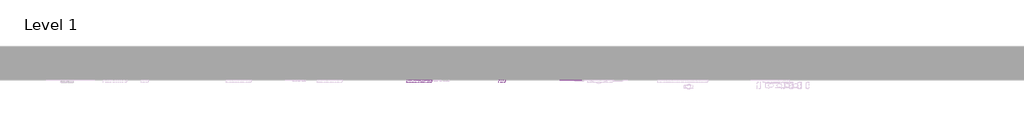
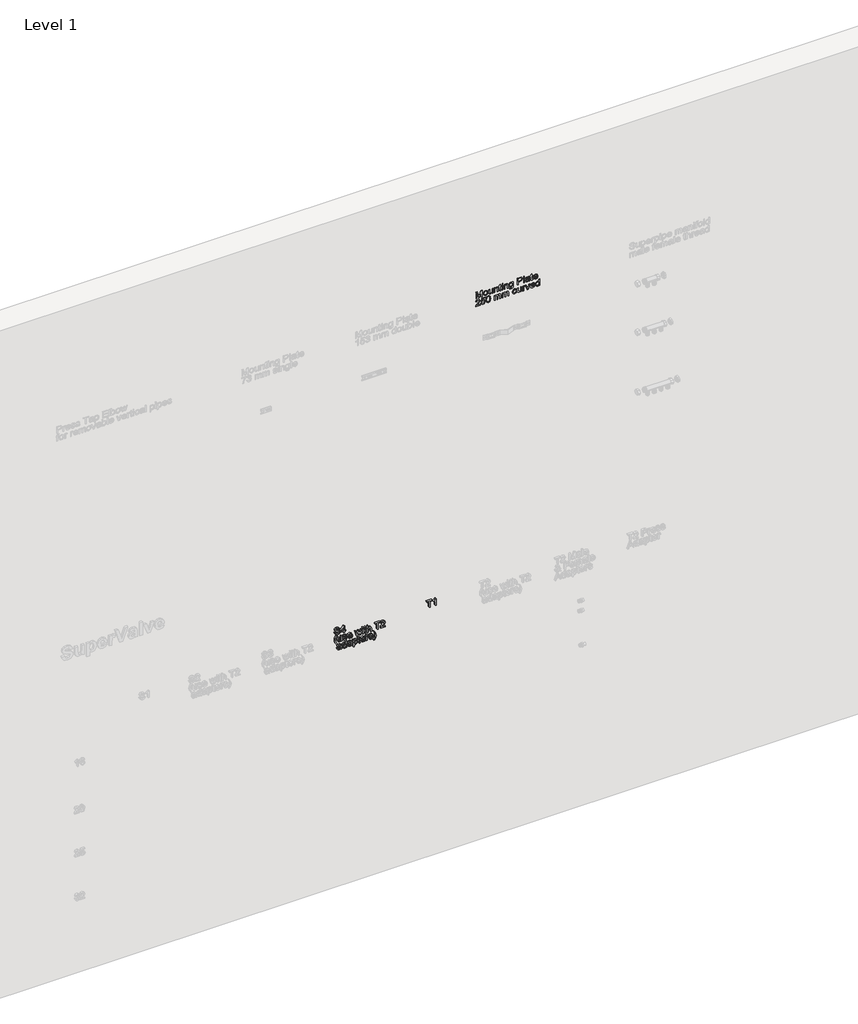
# One storey, part 15 of 57: 3 proxies.
"""IFC4 building model written with IfcOpenShell, lengths in millimetres."""

from ifc_helpers import new_model, si_unit, frame, origin, place, context, project, spatial, polyline, outline, extrude, element, save

model = new_model("IFC4")

# Units and contexts
model_context = context("Model", 3, world=origin())
ifc_project = project(units=[si_unit("LENGTHUNIT", "METRE", prefix="MILLI")], contexts=[model_context])

# Site, building, storey
site = spatial("IfcSite", under=ifc_project)
building = spatial("IfcBuilding", under=site)
storey = spatial("IfcBuildingStorey", under=building, Name="Level 1", Elevation=27.3876384)

# Proxies
placement = place(None, origin())
element("IfcBuildingElementProxy", 1, Name="50mm Arial", ObjectType="50mm Arial", at=placement, inside=storey, context=model_context, shape_type="SweptSolid", body=[
    extrude(outline(polyline([(4250.1944926, 14587.2068534), (4250.1944926, 14593.4853728), (4294.1441282, 14593.4853728), (4250.1944926, 14606.1037252), (4250.1944926, 14614.6140621), (4294.1441282, 14627.2324145), (4250.1944926, 14627.2324145), (4250.1944926, 14633.5109339), (4300.4226476, 14633.5109339), (4300.4226476, 14622.7074659), (4265.6332736, 14612.6029738), (4257.6257089, 14610.3588936), (4265.020137, 14608.2864917), (4300.4226476, 14598.0103213), (4300.4226476, 14587.2068534), (4250.1944926, 14587.2068534)])), frame((0.0, 4542.8703674, 0.0), z_axis=(0.0, 1.0, 0.0), x_axis=(0.0, 0.0, 1.0)), (0.0, 0.0, 1.0), 2.0),
    extrude(outline(polyline([(4268.6376432, 14642.143898), (4254.3638218, 14646.6995034), (4249.4096776, 14658.6372741), (4251.6598892, 14667.1414796), (4257.9813281, 14673.0705111), (4269.152678, 14675.1061248), (4282.8930706, 14670.5014685), (4287.8656089, 14658.6372741), (4283.7821187, 14647.5762888), (4277.5311905, 14643.5019957), (4268.6376432, 14642.143898)]), holes=[polyline([(4268.649906, 14648.4224174), (4278.368122, 14651.3286852), (4281.5870895, 14658.6372741), (4278.3558593, 14665.9029435), (4268.8461097, 14668.8276054), (4258.9378213, 14665.9213376), (4255.688197, 14658.6372741), (4258.9194272, 14651.3286852), (4268.649906, 14648.4224174)])]), frame((0.0, 4542.8703674, 0.0), z_axis=(0.0, 1.0, 0.0), x_axis=(0.0, 0.0, 1.0)), (0.0, 0.0, 1.0), 2.0),
    extrude(outline(polyline([(4250.1944926, 14705.7139068), (4250.1944926, 14711.9924262), (4287.0807939, 14711.9924262), (4287.0807939, 14705.7139068), (4267.8896165, 14705.7139068), (4260.8937272, 14704.6960999), (4257.0861486, 14701.2318778), (4255.688197, 14695.9895594), (4257.0554918, 14691.3113267), (4260.8140195, 14688.8281232), (4267.2151662, 14688.4479785), (4287.0807939, 14688.4479785), (4287.0807939, 14682.1694591), (4264.2598475, 14682.1694591), (4258.4227865, 14682.5373411), (4253.7997361, 14684.4074079), (4250.6604764, 14688.4786353), (4249.4096776, 14694.3831413), (4251.1908396, 14700.7965508), (4256.5343256, 14705.7139068), (4250.1944926, 14705.7139068)])), frame((0.0, 4542.8703674, 0.0), z_axis=(0.0, 1.0, 0.0), x_axis=(0.0, 0.0, 1.0)), (0.0, 0.0, 1.0), 2.0),
    extrude(outline(polyline([(4250.1944926, 14720.6253903), (4250.1944926, 14726.9039097), (4269.7658147, 14726.9039097), (4279.1222801, 14729.7672579), (4281.5870895, 14736.5792062), (4280.4895749, 14740.8895569), (4277.5526503, 14743.4463368), (4271.9976321, 14744.169838), (4250.1944926, 14744.169838), (4250.1944926, 14750.4483574), (4272.8437607, 14750.4483574), (4278.9138136, 14750.1172636), (4283.5307327, 14748.2349341), (4286.6699924, 14744.1882321), (4287.8656089, 14738.2592006), (4286.3818181, 14731.7047697), (4281.930446, 14726.9039097), (4287.0807939, 14726.9039097), (4287.0807939, 14720.6253903), (4250.1944926, 14720.6253903)])), frame((0.0, 4542.8703674, 0.0), z_axis=(0.0, 1.0, 0.0), x_axis=(0.0, 0.0, 1.0)), (0.0, 0.0, 1.0), 2.0),
    extrude(outline(polyline([(4255.4306796, 14772.4231752), (4255.688197, 14769.6885858), (4257.2578269, 14766.4757497), (4260.4951884, 14766.1446559), (4280.8022746, 14766.1446559), (4280.8022746, 14772.4231752), (4287.0807939, 14772.4231752), (4287.0807939, 14766.1446559), (4299.7359346, 14766.1446559), (4296.0448519, 14759.8661365), (4287.0807939, 14759.8661365), (4287.0807939, 14755.1572469), (4280.8022746, 14755.1572469), (4280.8022746, 14759.8661365), (4260.3112474, 14759.8661365), (4253.1865994, 14760.6264259), (4250.45201, 14763.2506508), (4249.4096776, 14768.5113634), (4250.0105516, 14773.2079902), (4255.4306796, 14772.4231752)])), frame((0.0, 4542.8703674, 0.0), z_axis=(0.0, 1.0, 0.0), x_axis=(0.0, 0.0, 1.0)), (0.0, 0.0, 1.0), 2.0),
    extrude(outline(polyline([(14784.980214, 4542.8703674), (14778.7016946, 4542.8703674), (14778.7016946, 4544.8703674), (14784.980214, 4544.8703674), (14784.980214, 4542.8703674)])), frame((0.0, 0.0, 4294.1441282), z_axis=(0.0, 0.0, 1.0), x_axis=(1.0, 0.0, 0.0)), (0.0, 0.0, 1.0), 6.2785194),
    extrude(outline(polyline([(14784.980214, 4542.8703674), (14778.7016946, 4542.8703674), (14778.7016946, 4544.8703674), (14784.980214, 4544.8703674), (14784.980214, 4542.8703674)])), frame((0.0, 0.0, 4250.1944926), z_axis=(0.0, 0.0, 1.0), x_axis=(1.0, 0.0, 0.0)), (0.0, 0.0, 1.0), 36.8863014),
    extrude(outline(polyline([(4250.1944926, 14794.3979931), (4250.1944926, 14800.6765125), (4269.7658147, 14800.6765125), (4279.1222801, 14803.5398607), (4281.5870895, 14810.351809), (4280.4895749, 14814.6621597), (4277.5526503, 14817.2189395), (4271.9976321, 14817.9424408), (4250.1944926, 14817.9424408), (4250.1944926, 14824.2209602), (4272.8437607, 14824.2209602), (4278.9138136, 14823.8898664), (4283.5307327, 14822.0075368), (4286.6699924, 14817.9608349), (4287.8656089, 14812.0318034), (4286.3818181, 14805.4773725), (4281.930446, 14800.6765125), (4287.0807939, 14800.6765125), (4287.0807939, 14794.3979931), (4250.1944926, 14794.3979931)])), frame((0.0, 4542.8703674, 0.0), z_axis=(0.0, 1.0, 0.0), x_axis=(0.0, 0.0, 1.0)), (0.0, 0.0, 1.0), 2.0),
    extrude(outline(polyline([(4247.0552329, 14831.2842945), (4238.2199336, 14835.1286613), (4235.283009, 14845.5703786), (4237.3676737, 14854.7367717), (4243.0391877, 14860.1752938), (4255.2344759, 14861.8920765), (4287.0807939, 14861.8920765), (4287.0807939, 14855.6135571), (4282.3719044, 14855.6135571), (4287.8656089, 14845.4968022), (4285.4375877, 14837.4953688), (4278.552063, 14832.29597), (4268.8215842, 14830.4994796), (4255.6759343, 14834.5032619), (4251.564853, 14839.3301803), (4250.1944926, 14845.8033706), (4254.9033821, 14855.6135571), (4247.5825304, 14855.1843614), (4243.143421, 14852.1186781), (4241.5615284, 14845.693006), (4242.95948, 14839.5984276), (4246.2704179, 14837.5628139), (4247.0552329, 14831.2842945)]), holes=[polyline([(4269.2507799, 14836.7779989), (4278.4784866, 14839.4941943), (4281.5870895, 14846.0854134), (4278.4294357, 14852.8176539), (4269.0668389, 14855.6135571), (4259.5141698, 14852.8973617), (4256.4730119, 14846.1835153), (4259.5325639, 14839.4574061), (4269.2507799, 14836.7779989)])]), frame((0.0, 4542.8703674, 0.0), z_axis=(0.0, 1.0, 0.0), x_axis=(0.0, 0.0, 1.0)), (0.0, 0.0, 1.0), 2.0),
    extrude(outline(polyline([(4250.1944926, 14891.7150436), (4250.1944926, 14897.9935629), (4270.5996806, 14897.9935629), (4270.5996806, 14910.7590682), (4275.03879, 14925.3455893), (4285.8913088, 14929.3861599), (4292.7400453, 14927.8901064), (4297.5960876, 14923.935375), (4299.944401, 14917.8346652), (4300.4226476, 14910.3298725), (4300.4226476, 14891.7150436), (4250.1944926, 14891.7150436)]), holes=[polyline([(4276.8781999, 14897.9935629), (4294.1441282, 14897.9935629), (4294.1441282, 14910.9797974), (4293.7149326, 14917.2583168), (4290.8699785, 14921.4950911), (4285.6705796, 14923.1076405), (4279.1835938, 14920.373051), (4276.8781999, 14911.1269502), (4276.8781999, 14897.9935629)])]), frame((0.0, 4542.8703674, 0.0), z_axis=(0.0, 1.0, 0.0), x_axis=(0.0, 0.0, 1.0)), (0.0, 0.0, 1.0), 2.0),
    extrude(outline(polyline([(14943.5128285, 4542.8703674), (14937.2343091, 4542.8703674), (14937.2343091, 4544.8703674), (14943.5128285, 4544.8703674), (14943.5128285, 4542.8703674)])), frame((0.0, 0.0, 4250.1944926), z_axis=(0.0, 0.0, 1.0), x_axis=(1.0, 0.0, 0.0)), (0.0, 0.0, 1.0), 50.2281551),
    extrude(outline(polyline([(4254.9033821, 14976.4750552), (4250.1944926, 14978.0446851), (4250.1944926, 14984.3232045), (4255.4735992, 14983.0724057), (4266.3813003, 14982.7535746), (4274.1926614, 14982.7535746), (4279.6863658, 14982.4470063), (4283.9476656, 14980.5217572), (4286.7497001, 14976.2236692), (4287.8656089, 14968.6146433), (4286.6025473, 14960.331167), (4283.0095665, 14954.861988), (4276.8781999, 14952.1457926), (4276.093385, 14958.424312), (4280.3792103, 14961.4532071), (4281.5870895, 14967.8053029), (4279.772205, 14974.7460099), (4273.7389402, 14976.438267), (4271.5806992, 14965.54896), (4270.6364688, 14960.1165692), (4268.5763296, 14955.7203793), (4264.971086, 14952.5627256), (4260.0046791, 14951.3609777), (4252.3895218, 14954.543157), (4249.4096776, 14963.6604991), (4250.6482137, 14970.3866082), (4254.9033821, 14976.4750552)]), holes=[polyline([(4267.4604209, 14976.4750552), (4265.6823246, 14976.438267), (4260.8262822, 14975.4449857), (4257.1903818, 14971.3492328), (4255.688197, 14964.997137), (4257.0493604, 14959.5095639), (4260.4461375, 14957.6394971), (4262.8618959, 14958.4978884), (4264.5173649, 14960.9443037), (4265.5351718, 14966.3460376), (4267.4604209, 14976.4750552)])]), frame((0.0, 4542.8703674, 0.0), z_axis=(0.0, 1.0, 0.0), x_axis=(0.0, 0.0, 1.0)), (0.0, 0.0, 1.0), 2.0),
    extrude(outline(polyline([(4255.4306796, 15004.7283925), (4255.688197, 15001.993803), (4257.2578269, 14998.7809669), (4260.4951884, 14998.4498731), (4280.8022746, 14998.4498731), (4280.8022746, 15004.7283925), (4287.0807939, 15004.7283925), (4287.0807939, 14998.4498731), (4299.7359346, 14998.4498731), (4296.0448519, 14992.1713537), (4287.0807939, 14992.1713537), (4287.0807939, 14987.4624642), (4280.8022746, 14987.4624642), (4280.8022746, 14992.1713537), (4260.3112474, 14992.1713537), (4253.1865994, 14992.9316432), (4250.45201, 14995.5558681), (4249.4096776, 15000.8165806), (4250.0105516, 15005.5132074), (4255.4306796, 15004.7283925)])), frame((0.0, 4542.8703674, 0.0), z_axis=(0.0, 1.0, 0.0), x_axis=(0.0, 0.0, 1.0)), (0.0, 0.0, 1.0), 2.0),
    extrude(outline(polyline([(4261.1819015, 15036.8322279), (4257.0003095, 15032.785526), (4255.688197, 15026.6296339), (4258.5208884, 15018.5423614), (4266.6756059, 15014.9309865), (4266.6756059, 15043.1475355), (4268.3678631, 15043.1843237), (4282.7520491, 15038.4202519), (4287.8656089, 15026.1513873), (4282.7397864, 15013.5207722), (4268.3310749, 15008.6524671), (4254.3822159, 15013.4717212), (4249.4096776, 15026.5070066), (4252.2914199, 15037.2307667), (4260.3970866, 15042.98812), (4261.1819015, 15036.8322279)]), holes=[polyline([(4272.9541253, 15014.9309865), (4279.2387761, 15018.3952086), (4281.5870895, 15026.1268619), (4278.6440335, 15034.391944), (4272.9541253, 15036.9058043), (4272.9541253, 15014.9309865)])]), frame((0.0, 4542.8703674, 0.0), z_axis=(0.0, 1.0, 0.0), x_axis=(0.0, 0.0, 1.0)), (0.0, 0.0, 1.0), 2.0),
    extrude(outline(polyline([(4195.485603, 14617.0298205), (4195.485603, 14592.3694641), (4198.680045, 14595.2021554), (4204.7194411, 14602.4249053), (4213.3217484, 14611.4196201), (4219.4776405, 14615.1290968), (4225.4311974, 14616.2450056), (4235.4130622, 14612.1063331), (4239.4352387, 14600.8675382), (4235.8177324, 14589.6655314), (4225.3085701, 14584.8524086), (4224.5237552, 14591.130928), (4230.8635882, 14593.773547), (4233.1567193, 14600.7326481), (4230.8084059, 14607.4097063), (4225.0510527, 14609.9664862), (4217.9386675, 14607.2564221), (4207.4785561, 14596.416166), (4200.2006239, 14588.5557541), (4193.5358284, 14584.742044), (4189.2070836, 14584.0675937), (4189.2070836, 14617.0298205), (4195.485603, 14617.0298205)])), frame((0.0, 4542.8703674, 0.0), z_axis=(0.0, 1.0, 0.0), x_axis=(0.0, 0.0, 1.0)), (0.0, 0.0, 1.0), 2.0),
    extrude(outline(polyline([(4202.5489373, 14623.3083399), (4192.291161, 14628.2073018), (4188.4222687, 14639.2866812), (4189.9275192, 14646.6811093), (4194.4432707, 14652.3342293), (4206.0928672, 14656.2705666), (4217.6688873, 14651.8989023), (4222.1693104, 14641.1628794), (4218.5395414, 14631.9780922), (4232.3719044, 14634.6636308), (4232.3719044, 14653.9161219), (4238.6504238, 14653.9161219), (4238.6504238, 14629.5868593), (4212.7515313, 14624.0931548), (4211.9667164, 14630.3716742), (4214.7994078, 14633.89721), (4215.890791, 14639.4093085), (4213.1562015, 14647.361691), (4205.7004597, 14649.9920473), (4197.7112891, 14647.1838814), (4194.7007881, 14639.3112067), (4196.8651605, 14632.7506444), (4203.3337522, 14629.5868593), (4202.5489373, 14623.3083399)])), frame((0.0, 4542.8703674, 0.0), z_axis=(0.0, 1.0, 0.0), x_axis=(0.0, 0.0, 1.0)), (0.0, 0.0, 1.0), 2.0),
    extrude(outline(polyline([(4213.916491, 14661.7642711), (4201.6997431, 14663.0150699), (4193.2047346, 14666.7674662), (4188.4222687, 14678.2453845), (4191.1752523, 14687.436303), (4199.5261736, 14692.8993506), (4213.916491, 14694.7264979), (4225.7193717, 14693.5860637), (4233.150588, 14690.6430077), (4237.8165579, 14685.5784989), (4239.4352387, 14678.2453845), (4236.7006492, 14669.0912542), (4228.368122, 14663.6098124), (4213.916491, 14661.7642711)]), holes=[polyline([(4213.9287537, 14668.0427905), (4229.7967304, 14671.0839483), (4233.1567193, 14678.1718081), (4229.3430093, 14685.6030244), (4213.9287537, 14688.4479785), (4198.3489512, 14685.5049225), (4194.7007881, 14678.2453845), (4198.3366885, 14670.9858464), (4213.9287537, 14668.0427905)])]), frame((0.0, 4542.8703674, 0.0), z_axis=(0.0, 1.0, 0.0), x_axis=(0.0, 0.0, 1.0)), (0.0, 0.0, 1.0), 2.0),
    extrude(outline(polyline([(4189.2070836, 14721.4102053), (4189.2070836, 14727.6887246), (4207.8096499, 14727.6887246), (4215.3021798, 14728.6452178), (4219.2507799, 14731.7354266), (4220.5996806, 14736.3830025), (4218.5763296, 14741.1470743), (4212.4940139, 14742.6002082), (4189.2070836, 14742.6002082), (4189.2070836, 14748.8787276), (4210.0292046, 14748.8787276), (4218.0858203, 14751.3374056), (4220.5996806, 14757.5116917), (4219.6186619, 14761.0985412), (4217.0373566, 14763.2077313), (4211.7950381, 14763.7902111), (4189.2070836, 14763.7902111), (4189.2070836, 14770.0687305), (4214.4928394, 14770.0687305), (4223.8431735, 14767.1931196), (4226.8781999, 14758.9832197), (4225.0541184, 14752.7966708), (4219.5818737, 14747.8977089), (4224.9590822, 14744.4396181), (4226.8781999, 14738.148836), (4224.9958704, 14732.0052067), (4220.0233321, 14727.6887246), (4226.093385, 14727.6887246), (4226.093385, 14721.4102053), (4189.2070836, 14721.4102053)])), frame((0.0, 4542.8703674, 0.0), z_axis=(0.0, 1.0, 0.0), x_axis=(0.0, 0.0, 1.0)), (0.0, 0.0, 1.0), 2.0),
    extrude(outline(polyline([(4189.2070836, 14779.4865096), (4189.2070836, 14785.7650289), (4207.8096499, 14785.7650289), (4215.3021798, 14786.7215221), (4219.2507799, 14789.8117309), (4220.5996806, 14794.4593068), (4218.5763296, 14799.2233786), (4212.4940139, 14800.6765125), (4189.2070836, 14800.6765125), (4189.2070836, 14806.9550319), (4210.0292046, 14806.9550319), (4218.0858203, 14809.4137099), (4220.5996806, 14815.587996), (4219.6186619, 14819.1748455), (4217.0373566, 14821.2840356), (4211.7950381, 14821.8665154), (4189.2070836, 14821.8665154), (4189.2070836, 14828.1450348), (4214.4928394, 14828.1450348), (4223.8431735, 14825.2694239), (4226.8781999, 14817.059524), (4225.0541184, 14810.8729751), (4219.5818737, 14805.9740132), (4224.9590822, 14802.5159225), (4226.8781999, 14796.2251403), (4224.9958704, 14790.081511), (4220.0233321, 14785.7650289), (4226.093385, 14785.7650289), (4226.093385, 14779.4865096), (4189.2070836, 14779.4865096)])), frame((0.0, 4542.8703674, 0.0), z_axis=(0.0, 1.0, 0.0), x_axis=(0.0, 0.0, 1.0)), (0.0, 0.0, 1.0), 2.0),
    extrude(outline(polyline([(4202.5489373, 14880.7276346), (4196.6260372, 14877.7171336), (4194.7007881, 14871.8003649), (4197.7848655, 14864.6327973), (4207.6870225, 14861.8920765), (4217.4972091, 14864.694111), (4220.5996806, 14871.9720431), (4219.0239193, 14877.0304206), (4214.3211612, 14879.9428197), (4215.1059761, 14886.2213391), (4223.8125166, 14881.46953), (4226.8781999, 14871.9229922), (4224.6463825, 14863.3819986), (4217.9447988, 14857.5326748), (4207.5153443, 14855.6135571), (4193.3580188, 14860.1078488), (4188.4222687, 14872.0088313), (4191.9600672, 14881.9661707), (4201.7641224, 14887.006154), (4202.5489373, 14880.7276346)])), frame((0.0, 4542.8703674, 0.0), z_axis=(0.0, 1.0, 0.0), x_axis=(0.0, 0.0, 1.0)), (0.0, 0.0, 1.0), 2.0),
    extrude(outline(polyline([(4189.2070836, 14916.0443062), (4189.2070836, 14922.3228256), (4226.093385, 14922.3228256), (4226.093385, 14916.0443062), (4206.9022076, 14916.0443062), (4199.9063183, 14915.0264993), (4196.0987397, 14911.5622772), (4194.7007881, 14906.3199588), (4196.0680828, 14901.6417261), (4199.8266106, 14899.1585226), (4206.2277573, 14898.7783779), (4226.093385, 14898.7783779), (4226.093385, 14892.4998585), (4203.2724386, 14892.4998585), (4197.4353776, 14892.8677405), (4192.8123272, 14894.7378073), (4189.6730675, 14898.8090347), (4188.4222687, 14904.7135407), (4190.2034307, 14911.1269502), (4195.5469167, 14916.0443062), (4189.2070836, 14916.0443062)])), frame((0.0, 4542.8703674, 0.0), z_axis=(0.0, 1.0, 0.0), x_axis=(0.0, 0.0, 1.0)), (0.0, 0.0, 1.0), 2.0),
    extrude(outline(polyline([(4189.2070836, 14930.9557897), (4189.2070836, 14937.2343091), (4208.5944648, 14937.2343091), (4215.9275792, 14938.2521159), (4219.3611445, 14940.5145902), (4220.5996806, 14944.0646515), (4219.3120936, 14948.4792354), (4224.9406881, 14950.5761628), (4226.8781999, 14944.2731179), (4225.6641894, 14940.3490433), (4220.6364688, 14936.4494942), (4226.093385, 14936.4494942), (4226.093385, 14930.9557897), (4189.2070836, 14930.9557897)])), frame((0.0, 4542.8703674, 0.0), z_axis=(0.0, 1.0, 0.0), x_axis=(0.0, 0.0, 1.0)), (0.0, 0.0, 1.0), 2.0),
    extrude(outline(polyline([(4189.2070836, 14963.5501345), (4189.2070836, 14971.5086483), (4226.093385, 14984.3232045), (4226.093385, 14977.6768031), (4203.5790069, 14969.7673402), (4196.5647235, 14967.4496836), (4203.9959398, 14965.0829761), (4226.093385, 14957.2225642), (4226.093385, 14950.5761628), (4189.2070836, 14963.5501345)])), frame((0.0, 4542.8703674, 0.0), z_axis=(0.0, 1.0, 0.0), x_axis=(0.0, 0.0, 1.0)), (0.0, 0.0, 1.0), 2.0),
    extrude(outline(polyline([(4200.1944926, 15015.642225), (4196.0129005, 15011.595523), (4194.7007881, 15005.439631), (4197.5334795, 14997.3523585), (4205.688197, 14993.7409835), (4205.688197, 15021.9575326), (4207.3804542, 15021.9943208), (4221.7646402, 15017.2302489), (4226.8781999, 15004.9613844), (4221.7523775, 14992.3307692), (4207.343666, 14987.4624642), (4193.394807, 14992.2817183), (4188.4222687, 15005.3170037), (4191.304011, 15016.0407638), (4199.4096776, 15021.798117), (4200.1944926, 15015.642225)]), holes=[polyline([(4211.9667164, 14993.7409835), (4218.2513672, 14997.2052057), (4220.5996806, 15004.9368589), (4217.6566246, 15013.2019411), (4211.9667164, 15015.7158014), (4211.9667164, 14993.7409835)])]), frame((0.0, 4542.8703674, 0.0), z_axis=(0.0, 1.0, 0.0), x_axis=(0.0, 0.0, 1.0)), (0.0, 0.0, 1.0), 2.0),
    extrude(outline(polyline([(4189.2070836, 15051.0324729), (4189.2070836, 15057.3109923), (4239.4352387, 15057.3109923), (4239.4352387, 15051.0324729), (4220.7223079, 15051.0324729), (4225.1675487, 15046.8999319), (4226.8781999, 15041.1119218), (4224.486967, 15033.0982257), (4217.6075737, 15027.7148858), (4207.6134461, 15025.9183954), (4197.62545, 15027.86817), (4190.8502899, 15033.3618744), (4188.4222687, 15041.1364473), (4190.0991975, 15046.8784721), (4195.1299838, 15051.0324729), (4189.2070836, 15051.0324729)]), holes=[polyline([(4207.6379716, 15032.1969148), (4217.478815, 15034.8456651), (4220.5996806, 15041.4552783), (4217.3500563, 15048.2672266), (4207.159725, 15051.0324729), (4197.7726028, 15048.3162775), (4194.7007881, 15041.7127957), (4197.9197556, 15035.0296061), (4207.6379716, 15032.1969148)])]), frame((0.0, 4542.8703674, 0.0), z_axis=(0.0, 1.0, 0.0), x_axis=(0.0, 0.0, 1.0)), (0.0, 0.0, 1.0), 2.0),
])
element("IfcBuildingElementProxy", 2, Name="50mm Arial", ObjectType="50mm Arial", at=placement, inside=storey, context=model_context, shape_type="SweptSolid", body=[
    extrude(outline(polyline([(2017.1831766, 13538.5875451), (2007.5937193, 13541.2976092), (2001.2416235, 13548.3916003), (1999.1324334, 13559.6058698), (2001.0883393, 13569.1033566), (2006.569781, 13575.5780797), (2014.0807051, 13577.8282913), (2021.1808276, 13575.8723853), (2026.2698619, 13569.7962011), (2029.4213843, 13558.6861648), (2032.928526, 13548.4345199), (2037.2817963, 13546.4356944), (2042.4934579, 13549.256123), (2044.6516989, 13558.2447064), (2042.4689324, 13567.2087644), (2036.0187348, 13570.764957), (2036.0187348, 13577.0434764), (2043.8791467, 13574.5541415), (2049.1398593, 13567.9322656), (2050.9302183, 13557.9994517), (2049.219567, 13548.6920373), (2044.2041091, 13542.3338101), (2037.0978553, 13540.157175), (2030.8561241, 13541.9168772), (2026.1840228, 13547.2572975), (2023.0876826, 13557.0981409), (2020.6903183, 13566.2400084), (2017.8392328, 13570.5074396), (2013.9212896, 13571.5497719), (2009.7090407, 13570.1579517), (2006.5575183, 13565.9211774), (2005.4109528, 13559.3606151), (2006.9254003, 13551.831297), (2010.8985259, 13546.8894155), (2017.1831766, 13544.8660645), (2017.1831766, 13538.5875451)])), frame((0.0, 4529.8703674, 0.0), z_axis=(0.0, 1.0, 0.0), x_axis=(0.0, 0.0, 1.0)), (0.0, 0.0, 1.0), 15.0),
    extrude(outline(polyline([(1999.9172483, 13605.2968136), (1999.9172483, 13611.575333), (2011.6894721, 13611.575333), (2011.6894721, 13617.8538524), (2017.9679915, 13617.8538524), (2017.9679915, 13611.575333), (2049.3605884, 13611.575333), (2049.3605884, 13606.8664434), (2017.9679915, 13582.5371808), (2011.6894721, 13582.5371808), (2011.6894721, 13605.2968136), (1999.9172483, 13605.2968136)]), holes=[polyline([(2017.9679915, 13605.2968136), (2017.9679915, 13590.2627027), (2037.3676354, 13605.2968136), (2017.9679915, 13605.2968136)])]), frame((0.0, 4529.8703674, 0.0), z_axis=(0.0, 1.0, 0.0), x_axis=(0.0, 0.0, 1.0)), (0.0, 0.0, 1.0), 15.0),
    extrude(outline(polyline([(1924.8031708, 13552.7142137), (1924.8031708, 13557.4231033), (1940.8857453, 13549.1825466), (1956.9805826, 13546.4356944), (1969.5744096, 13548.0175869), (1979.2129178, 13551.5492541), (1989.1579944, 13557.4231033), (1989.1579944, 13552.7142137), (1972.2844736, 13542.8795017), (1957.0173708, 13540.157175), (1939.5307133, 13543.7992067), (1924.8031708, 13552.7142137)])), frame((0.0, 4529.8703674, 0.0), z_axis=(0.0, 1.0, 0.0), x_axis=(0.0, 0.0, 1.0)), (0.0, 0.0, 1.0), 15.0),
    extrude(outline(polyline([(1938.9298394, 13587.2460704), (1938.9298394, 13593.5245897), (1975.8161408, 13593.5245897), (1975.8161408, 13587.2460704), (1956.6249633, 13587.2460704), (1949.6290741, 13586.2282635), (1945.8214954, 13582.7640414), (1944.4235438, 13577.521723), (1945.7908386, 13572.8434902), (1949.5493663, 13570.3602868), (1955.950513, 13569.980142), (1975.8161408, 13569.980142), (1975.8161408, 13563.7016227), (1952.9951943, 13563.7016227), (1947.1581333, 13564.0695047), (1942.5350829, 13565.9395715), (1939.3958232, 13570.0107989), (1938.1450245, 13575.9153049), (1939.9261864, 13582.3287144), (1945.2696724, 13587.2460704), (1938.9298394, 13587.2460704)])), frame((0.0, 4529.8703674, 0.0), z_axis=(0.0, 1.0, 0.0), x_axis=(0.0, 0.0, 1.0)), (0.0, 0.0, 1.0), 15.0),
    extrude(outline(polyline([(1949.9172483, 13599.8031091), (1941.1126059, 13604.6101005), (1938.1450245, 13615.5607213), (1939.6839975, 13623.3352941), (1944.0433991, 13628.5898752), (1950.0521384, 13630.4108911), (1955.5090546, 13628.8596554), (1958.8567808, 13624.5799615), (1961.8120995, 13615.3645175), (1963.1487374, 13609.9566522), (1964.5344262, 13607.6144702), (1966.3615735, 13606.8664434), (1969.1329512, 13608.6690652), (1970.3224363, 13614.6778045), (1969.0777689, 13620.2021658), (1965.6135468, 13622.5627419), (1966.3983617, 13628.8412613), (1972.0330876, 13626.6830202), (1975.368551, 13621.8269779), (1976.6009557, 13614.1872951), (1975.8345349, 13608.7855612), (1973.9767308, 13604.7940415), (1970.4021441, 13601.7160955), (1965.7239114, 13600.587924), (1960.6594026, 13601.992007), (1957.0725531, 13606.1184167), (1954.0007384, 13615.572984), (1952.2103794, 13622.0354444), (1949.3899508, 13624.1323717), (1945.9073345, 13622.0477071), (1944.4235438, 13615.6465604), (1946.0422246, 13608.9878963), (1950.7020632, 13606.0816285), (1949.9172483, 13599.8031091)])), frame((0.0, 4529.8703674, 0.0), z_axis=(0.0, 1.0, 0.0), x_axis=(0.0, 0.0, 1.0)), (0.0, 0.0, 1.0), 15.0),
    extrude(outline(polyline([(1949.9172483, 13663.2995415), (1945.7356563, 13659.2528395), (1944.4235438, 13653.0969475), (1947.2562352, 13645.009675), (1955.4109528, 13641.3983), (1955.4109528, 13669.6148491), (1957.1032099, 13669.6516373), (1971.4873959, 13664.8875654), (1976.6009557, 13652.6187009), (1971.4751332, 13639.9880857), (1957.0664217, 13635.1197807), (1943.1175628, 13639.9390348), (1938.1450245, 13652.9743202), (1941.0267667, 13663.6980803), (1949.1324334, 13669.4554335), (1949.9172483, 13663.2995415)]), holes=[polyline([(1961.6894721, 13641.3983), (1967.9741229, 13644.8625222), (1970.3224363, 13652.5941754), (1967.3793803, 13660.8592576), (1961.6894721, 13663.3731179), (1961.6894721, 13641.3983)])]), frame((0.0, 4529.8703674, 0.0), z_axis=(0.0, 1.0, 0.0), x_axis=(0.0, 0.0, 1.0)), (0.0, 0.0, 1.0), 15.0),
    extrude(outline(polyline([(1938.9298394, 13701.6696336), (1938.9298394, 13709.3461046), (1967.3058039, 13715.5633103), (1960.5613007, 13716.9612619), (1938.9298394, 13721.780516), (1938.9298394, 13729.3711478), (1975.8161408, 13740.6773878), (1975.8161408, 13734.1290883), (1954.4421968, 13727.752467), (1947.3665998, 13725.7659043), (1954.0743148, 13724.3802154), (1975.8161408, 13719.3402321), (1975.8161408, 13711.8599649), (1954.0130012, 13706.7954561), (1946.6063103, 13705.2380889), (1954.295044, 13703.3373653), (1975.8161408, 13696.9730068), (1975.8161408, 13690.4492327), (1938.9298394, 13701.6696336)])), frame((0.0, 4529.8703674, 0.0), z_axis=(0.0, 1.0, 0.0), x_axis=(0.0, 0.0, 1.0)), (0.0, 0.0, 1.0), 15.0),
    extrude(outline(polyline([(13751.2723893, 4529.8703674), (13744.9938699, 4529.8703674), (13744.9938699, 4544.8703674), (13751.2723893, 4544.8703674), (13751.2723893, 4529.8703674)])), frame((0.0, 0.0, 1982.8794751), z_axis=(0.0, 0.0, 1.0), x_axis=(1.0, 0.0, 0.0)), (0.0, 0.0, 1.0), 6.2785194),
    extrude(outline(polyline([(13751.2723893, 4529.8703674), (13744.9938699, 4529.8703674), (13744.9938699, 4544.8703674), (13751.2723893, 4544.8703674), (13751.2723893, 4529.8703674)])), frame((0.0, 0.0, 1938.9298394), z_axis=(0.0, 0.0, 1.0), x_axis=(1.0, 0.0, 0.0)), (0.0, 0.0, 1.0), 36.8863014),
    extrude(outline(polyline([(1944.1660264, 13774.032022), (1944.4235438, 13771.2974325), (1945.9931737, 13768.0845965), (1949.2305352, 13767.7535027), (1969.5376214, 13767.7535027), (1969.5376214, 13774.032022), (1975.8161408, 13774.032022), (1975.8161408, 13767.7535027), (1988.4712814, 13767.7535027), (1984.7801987, 13761.4749833), (1975.8161408, 13761.4749833), (1975.8161408, 13756.7660937), (1969.5376214, 13756.7660937), (1969.5376214, 13761.4749833), (1949.0465942, 13761.4749833), (1941.9219463, 13762.2352727), (1939.1873568, 13764.8594976), (1938.1450245, 13770.1202102), (1938.7458984, 13774.816837), (1944.1660264, 13774.032022)])), frame((0.0, 4529.8703674, 0.0), z_axis=(0.0, 1.0, 0.0), x_axis=(0.0, 0.0, 1.0)), (0.0, 0.0, 1.0), 15.0),
    extrude(outline(polyline([(1938.9298394, 13780.3105414), (1938.9298394, 13786.5890608), (1958.525687, 13786.5890608), (1965.1353002, 13787.612999), (1968.9244847, 13791.0465643), (1970.3224363, 13796.1907809), (1968.2500344, 13801.8561636), (1961.6281585, 13803.8549891), (1938.9298394, 13803.8549891), (1938.9298394, 13810.1335085), (1962.2780833, 13810.1335085), (1970.5309028, 13808.8459215), (1974.9884063, 13804.5662276), (1976.6009557, 13797.5151561), (1970.6903183, 13786.5890608), (1989.1579944, 13786.5890608), (1989.1579944, 13780.3105414), (1938.9298394, 13780.3105414)])), frame((0.0, 4529.8703674, 0.0), z_axis=(0.0, 1.0, 0.0), x_axis=(0.0, 0.0, 1.0)), (0.0, 0.0, 1.0), 15.0),
    extrude(outline(polyline([(1938.9298394, 13851.7286994), (1938.9298394, 13858.0072188), (1982.8794751, 13858.0072188), (1982.8794751, 13874.4883322), (1989.1579944, 13874.4883322), (1989.1579944, 13835.247586), (1982.8794751, 13835.247586), (1982.8794751, 13851.7286994), (1938.9298394, 13851.7286994)])), frame((0.0, 4529.8703674, 0.0), z_axis=(0.0, 1.0, 0.0), x_axis=(0.0, 0.0, 1.0)), (0.0, 0.0, 1.0), 15.0),
    extrude(outline(polyline([(1945.2083588, 13911.3746336), (1945.2083588, 13886.7142772), (1948.4028008, 13889.5469685), (1954.4421968, 13896.7697184), (1963.0445042, 13905.7644331), (1969.2003962, 13909.4739099), (1975.1539532, 13910.5898187), (1985.135818, 13906.4511462), (1989.1579944, 13895.2123513), (1985.5404882, 13884.0103445), (1975.0313258, 13879.1972217), (1974.2465109, 13885.4757411), (1980.586344, 13888.1183601), (1982.8794751, 13895.0774612), (1980.5311617, 13901.7545194), (1974.7738084, 13904.3112993), (1967.6614232, 13901.6012352), (1957.2013118, 13890.7609791), (1949.9233797, 13882.9005671), (1943.2585842, 13879.0868571), (1938.9298394, 13878.4124068), (1938.9298394, 13911.3746336), (1945.2083588, 13911.3746336)])), frame((0.0, 4529.8703674, 0.0), z_axis=(0.0, 1.0, 0.0), x_axis=(0.0, 0.0, 1.0)), (0.0, 0.0, 1.0), 15.0),
    extrude(outline(polyline([(1882.65132, 13583.3219957), (1877.9424305, 13584.8916256), (1877.9424305, 13591.170145), (1883.2215371, 13589.9193462), (1894.1292382, 13589.6005151), (1901.9405993, 13589.6005151), (1907.4343037, 13589.2939468), (1911.6956035, 13587.3686977), (1914.497638, 13583.0706097), (1915.6135468, 13575.4615838), (1914.3504852, 13567.1781075), (1910.7575044, 13561.7089285), (1904.6261378, 13558.9927331), (1903.8413229, 13565.2712525), (1908.1271482, 13568.3001476), (1909.3350274, 13574.6522434), (1907.5201429, 13581.5929504), (1901.4868781, 13583.2852075), (1899.3286371, 13572.3959005), (1898.3844067, 13566.9635097), (1896.3242675, 13562.5673198), (1892.7190239, 13559.4096661), (1887.752617, 13558.2079182), (1880.1374597, 13561.3900975), (1877.1576155, 13570.5074396), (1878.3961516, 13577.2335487), (1882.65132, 13583.3219957)]), holes=[polyline([(1895.2083588, 13583.3219957), (1893.4302624, 13583.2852075), (1888.5742201, 13582.2919262), (1884.9383197, 13578.1961733), (1883.4361349, 13571.8440775), (1884.7972983, 13566.3565044), (1888.1940754, 13564.4864376), (1890.6098338, 13565.3448289), (1892.2653028, 13567.7912442), (1893.2831097, 13573.1929781), (1895.2083588, 13583.3219957)])]), frame((0.0, 4529.8703674, 0.0), z_axis=(0.0, 1.0, 0.0), x_axis=(0.0, 0.0, 1.0)), (0.0, 0.0, 1.0), 15.0),
    extrude(outline(polyline([(1877.9424305, 13620.993112), (1877.9424305, 13627.2716314), (1928.1705855, 13627.2716314), (1928.1705855, 13620.993112), (1909.4576547, 13620.993112), (1913.9028955, 13616.860571), (1915.6135468, 13611.0725609), (1913.2223138, 13603.0588648), (1906.3429205, 13597.6755249), (1896.3487929, 13595.8790345), (1886.3607968, 13597.8288091), (1879.5856367, 13603.3225135), (1877.1576155, 13611.0970864), (1878.8345443, 13616.8391112), (1883.8653306, 13620.993112), (1877.9424305, 13620.993112)]), holes=[polyline([(1896.3733184, 13602.1575539), (1906.2141618, 13604.8063043), (1909.3350274, 13611.4159174), (1906.0854031, 13618.2278657), (1895.8950718, 13620.993112), (1886.5079496, 13618.2769166), (1883.4361349, 13611.6734348), (1886.6551024, 13604.9902453), (1896.3733184, 13602.1575539)])]), frame((0.0, 4529.8703674, 0.0), z_axis=(0.0, 1.0, 0.0), x_axis=(0.0, 0.0, 1.0)), (0.0, 0.0, 1.0), 15.0),
    extrude(outline(polyline([(1882.65132, 13660.2338582), (1877.9424305, 13661.803488), (1877.9424305, 13668.0820074), (1883.2215371, 13666.8312086), (1894.1292382, 13666.5123776), (1901.9405993, 13666.5123776), (1907.4343037, 13666.2058093), (1911.6956035, 13664.2805601), (1914.497638, 13659.9824722), (1915.6135468, 13652.3734462), (1914.3504852, 13644.08997), (1910.7575044, 13638.620791), (1904.6261378, 13635.9045956), (1903.8413229, 13642.183115), (1908.1271482, 13645.2120101), (1909.3350274, 13651.5641058), (1907.5201429, 13658.5048128), (1901.4868781, 13660.19707), (1899.3286371, 13649.3077629), (1898.3844067, 13643.8753721), (1896.3242675, 13639.4791823), (1892.7190239, 13636.3215285), (1887.752617, 13635.1197807), (1880.1374597, 13638.3019599), (1877.1576155, 13647.419302), (1878.3961516, 13654.1454112), (1882.65132, 13660.2338582)]), holes=[polyline([(1895.2083588, 13660.2338582), (1893.4302624, 13660.19707), (1888.5742201, 13659.2037886), (1884.9383197, 13655.1080357), (1883.4361349, 13648.7559399), (1884.7972983, 13643.2683669), (1888.1940754, 13641.3983), (1890.6098338, 13642.2566914), (1892.2653028, 13644.7031066), (1893.2831097, 13650.1048406), (1895.2083588, 13660.2338582)])]), frame((0.0, 4529.8703674, 0.0), z_axis=(0.0, 1.0, 0.0), x_axis=(0.0, 0.0, 1.0)), (0.0, 0.0, 1.0), 15.0),
    extrude(outline(polyline([(1863.8157618, 13675.1453417), (1863.8157618, 13681.4238611), (1882.8475237, 13681.4238611), (1878.7701649, 13685.403118), (1877.1576155, 13690.8661657), (1879.5672426, 13698.8062854), (1886.4956868, 13704.5575073), (1896.667624, 13706.5379387), (1906.3429205, 13704.7843678), (1913.1855256, 13699.5849689), (1915.6135468, 13691.6264551), (1913.87837, 13685.7648687), (1908.6728398, 13681.4238611), (1914.8287318, 13681.4238611), (1914.8287318, 13675.1453417), (1863.8157618, 13675.1453417)]), holes=[polyline([(1896.0912755, 13681.4238611), (1905.9443817, 13684.3239975), (1909.3350274, 13690.988793), (1906.1467167, 13697.5248298), (1896.5572594, 13700.2594193), (1886.6367083, 13697.4573847), (1883.4361349, 13690.7312756), (1886.5263437, 13684.1400565), (1896.0912755, 13681.4238611)])]), frame((0.0, 4529.8703674, 0.0), z_axis=(0.0, 1.0, 0.0), x_axis=(0.0, 0.0, 1.0)), (0.0, 0.0, 1.0), 15.0),
    extrude(outline(polyline([(1883.1786175, 13726.9431267), (1883.4361349, 13724.2085372), (1885.0057648, 13720.9957011), (1888.2431263, 13720.6646073), (1908.5502125, 13720.6646073), (1908.5502125, 13726.9431267), (1914.8287318, 13726.9431267), (1914.8287318, 13720.6646073), (1927.4838725, 13720.6646073), (1923.7927898, 13714.3860879), (1914.8287318, 13714.3860879), (1914.8287318, 13709.6771984), (1908.5502125, 13709.6771984), (1908.5502125, 13714.3860879), (1888.0591853, 13714.3860879), (1880.9345373, 13715.1463773), (1878.1999478, 13717.7706022), (1877.1576155, 13723.0313148), (1877.7584895, 13727.7279416), (1883.1786175, 13726.9431267)])), frame((0.0, 4529.8703674, 0.0), z_axis=(0.0, 1.0, 0.0), x_axis=(0.0, 0.0, 1.0)), (0.0, 0.0, 1.0), 15.0),
    extrude(outline(polyline([(1888.9298394, 13759.0469621), (1884.7482474, 13755.0002602), (1883.4361349, 13748.8443681), (1886.2688263, 13740.7570956), (1894.4235438, 13737.1457207), (1894.4235438, 13765.3622697), (1896.115801, 13765.3990579), (1910.499987, 13760.634986), (1915.6135468, 13748.3661215), (1910.4877243, 13735.7355063), (1896.0790128, 13730.8672013), (1882.1301538, 13735.6864554), (1877.1576155, 13748.7217408), (1880.0393578, 13759.4455009), (1888.1450245, 13765.2028542), (1888.9298394, 13759.0469621)]), holes=[polyline([(1900.7020632, 13737.1457207), (1906.986714, 13740.6099428), (1909.3350274, 13748.341596), (1906.3919714, 13756.6066782), (1900.7020632, 13759.1205385), (1900.7020632, 13737.1457207)])]), frame((0.0, 4529.8703674, 0.0), z_axis=(0.0, 1.0, 0.0), x_axis=(0.0, 0.0, 1.0)), (0.0, 0.0, 1.0), 15.0),
    extrude(outline(polyline([(1877.9424305, 13771.6775773), (1877.9424305, 13777.9560967), (1897.3298116, 13777.9560967), (1904.662926, 13778.9739035), (1908.0964913, 13781.2363778), (1909.3350274, 13784.786439), (1908.0474404, 13789.201023), (1913.6760349, 13791.2979503), (1915.6135468, 13784.9949055), (1914.3995362, 13781.0708309), (1909.3718156, 13777.1712817), (1914.8287318, 13777.1712817), (1914.8287318, 13771.6775773), (1877.9424305, 13771.6775773)])), frame((0.0, 4529.8703674, 0.0), z_axis=(0.0, 1.0, 0.0), x_axis=(0.0, 0.0, 1.0)), (0.0, 0.0, 1.0), 15.0),
    extrude(outline(polyline([(1888.9298394, 13792.8675802), (1880.125197, 13797.6745716), (1877.1576155, 13808.6251923), (1878.6965885, 13816.3997652), (1883.0559902, 13821.6543463), (1889.0647294, 13823.4753622), (1894.5216457, 13821.9241264), (1897.8693719, 13817.6444326), (1900.8246906, 13808.4289886), (1902.1613285, 13803.0211233), (1903.5470173, 13800.6789412), (1905.3741646, 13799.9309145), (1908.1455423, 13801.7335363), (1909.3350274, 13807.7422755), (1908.09036, 13813.2666368), (1904.6261378, 13815.627213), (1905.4109528, 13821.9057323), (1911.0456787, 13819.7474913), (1914.3811421, 13814.891449), (1915.6135468, 13807.2517662), (1914.8471259, 13801.8500322), (1912.9893219, 13797.8585126), (1909.4147351, 13794.7805666), (1904.7365024, 13793.6523951), (1899.6719936, 13795.0564781), (1896.0851442, 13799.1828878), (1893.0133295, 13808.6374551), (1891.2229705, 13815.0999154), (1888.4025418, 13817.1968428), (1884.9199256, 13815.1121782), (1883.4361349, 13808.7110315), (1885.0548157, 13802.0523673), (1889.7146543, 13799.1460996), (1888.9298394, 13792.8675802)])), frame((0.0, 4529.8703674, 0.0), z_axis=(0.0, 1.0, 0.0), x_axis=(0.0, 0.0, 1.0)), (0.0, 0.0, 1.0), 15.0),
    extrude(outline(polyline([(1863.8157618, 13832.1083263), (1878.5433044, 13841.0049393), (1896.0299619, 13844.6653651), (1911.2970647, 13841.9430384), (1928.1705855, 13832.1083263), (1928.1705855, 13827.3994368), (1918.1274071, 13833.3100742), (1908.4766361, 13836.8049532), (1895.9931737, 13838.3868457), (1879.8983364, 13835.6399935), (1863.8157618, 13827.3994368), (1863.8157618, 13832.1083263)])), frame((0.0, 4529.8703674, 0.0), z_axis=(0.0, 1.0, 0.0), x_axis=(0.0, 0.0, 1.0)), (0.0, 0.0, 1.0), 15.0),
])
element("IfcBuildingElementProxy", 3, Name="50mm Arial", ObjectType="50mm Arial", at=placement, inside=storey, context=model_context, shape_type="SweptSolid", body=[
    extrude(outline(polyline([(1975.1450495, 14235.3647793), (1975.1450495, 14241.6432987), (2019.0946852, 14241.6432987), (2019.0946852, 14258.1244121), (2025.3732046, 14258.1244121), (2025.3732046, 14218.8836659), (2019.0946852, 14218.8836659), (2019.0946852, 14235.3647793), (1975.1450495, 14235.3647793)])), frame((0.0, 4529.8703674, 0.0), z_axis=(0.0, 1.0, 0.0), x_axis=(0.0, 0.0, 1.0)), (0.0, 0.0, 1.0), 15.0),
    extrude(outline(polyline([(1975.1450495, 14286.3777493), (2025.3732046, 14286.3777493), (2025.3732046, 14282.3310474), (2018.690015, 14276.7453724), (2012.8161658, 14267.5421911), (2006.881003, 14267.5421911), (2010.0509195, 14274.1518043), (2014.2876938, 14280.0992299), (1975.1450495, 14280.0992299), (1975.1450495, 14286.3777493)])), frame((0.0, 4529.8703674, 0.0), z_axis=(0.0, 1.0, 0.0), x_axis=(0.0, 0.0, 1.0)), (0.0, 0.0, 1.0), 15.0),
])

save(model, "model.ifc")
